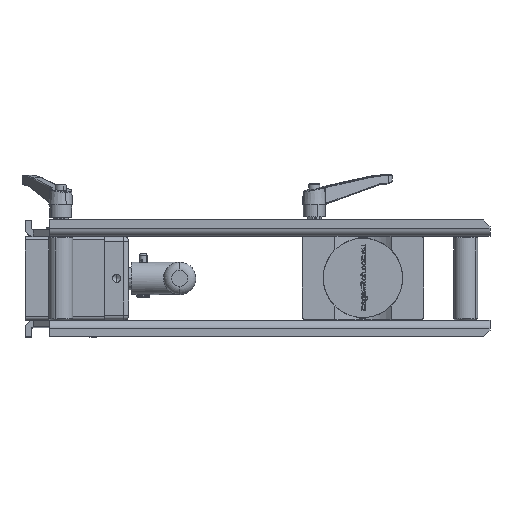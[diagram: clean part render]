
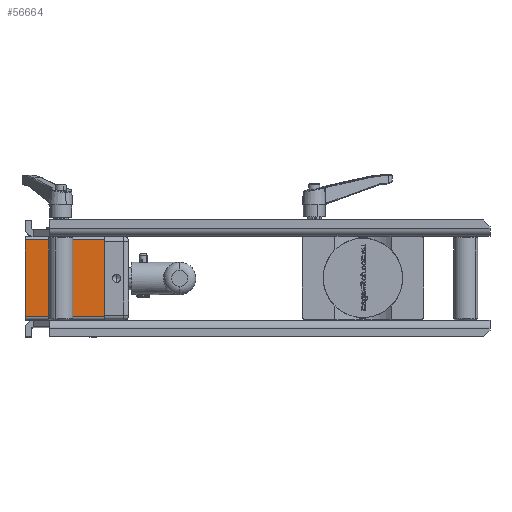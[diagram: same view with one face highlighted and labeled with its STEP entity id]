
A CAD part, top view. The second image highlights one B-rep face of the part: STEP entity #56664.
In plain terms, the highlighted planar face has unit normal (0, 0, 1).
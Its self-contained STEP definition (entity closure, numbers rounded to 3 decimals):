
#531 = VECTOR ( 'NONE', #123022, 1000. ) ;
#2863 = EDGE_CURVE ( 'NONE', #81732, #28580, #54577, .T. ) ;
#4057 = CARTESIAN_POINT ( 'NONE',  ( 0., -26.76, -159.886 ) ) ;
#11152 = FACE_OUTER_BOUND ( 'NONE', #78413, .T. ) ;
#13552 = LINE ( 'NONE', #84148, #116432 ) ;
#18914 = CARTESIAN_POINT ( 'NONE',  ( 49., -28.76, -159.886 ) ) ;
#25083 = CARTESIAN_POINT ( 'NONE',  ( 49., 20.74, -159.886 ) ) ;
#28580 = VERTEX_POINT ( 'NONE', #44745 ) ;
#30069 = DIRECTION ( 'NONE',  ( 0., 0., -1. ) ) ;
#33454 = AXIS2_PLACEMENT_3D ( 'NONE', #18914, #30069, #50245 ) ;
#41193 = EDGE_CURVE ( 'NONE', #78023, #128008, #51803, .T. ) ;
#42801 = DIRECTION ( 'NONE',  ( 0., 1., 0. ) ) ;
#44745 = CARTESIAN_POINT ( 'NONE',  ( 49., -26.76, -159.886 ) ) ;
#50245 = DIRECTION ( 'NONE',  ( 1., 0., 0. ) ) ;
#51803 = LINE ( 'NONE', #25083, #103354 ) ;
#52364 = ORIENTED_EDGE ( 'NONE', *, *, #41193, .T. ) ;
#54298 = EDGE_CURVE ( 'NONE', #81732, #128008, #13552, .T. ) ;
#54577 = LINE ( 'NONE', #131560, #104568 ) ;
#56664 = ADVANCED_FACE ( 'NONE', ( #11152 ), #91628, .F. ) ;
#66853 = DIRECTION ( 'NONE',  ( -1., 0., 0. ) ) ;
#78023 = VERTEX_POINT ( 'NONE', #122917 ) ;
#78413 = EDGE_LOOP ( 'NONE', ( #114267, #117386, #98874, #52364 ) ) ;
#79430 = DIRECTION ( 'NONE',  ( 1., 0., 0. ) ) ;
#80329 = CARTESIAN_POINT ( 'NONE',  ( 49., -28.76, -159.886 ) ) ;
#81732 = VERTEX_POINT ( 'NONE', #4057 ) ;
#84148 = CARTESIAN_POINT ( 'NONE',  ( 0., -28.76, -159.886 ) ) ;
#85476 = EDGE_CURVE ( 'NONE', #28580, #78023, #127601, .T. ) ;
#91628 = PLANE ( 'NONE',  #33454 ) ;
#98874 = ORIENTED_EDGE ( 'NONE', *, *, #85476, .T. ) ;
#103354 = VECTOR ( 'NONE', #66853, 1000. ) ;
#104568 = VECTOR ( 'NONE', #79430, 1000. ) ;
#114267 = ORIENTED_EDGE ( 'NONE', *, *, #54298, .F. ) ;
#116432 = VECTOR ( 'NONE', #42801, 1000. ) ;
#117386 = ORIENTED_EDGE ( 'NONE', *, *, #2863, .T. ) ;
#122917 = CARTESIAN_POINT ( 'NONE',  ( 49., 20.74, -159.886 ) ) ;
#123022 = DIRECTION ( 'NONE',  ( 0., 1., 0. ) ) ;
#123817 = CARTESIAN_POINT ( 'NONE',  ( 0., 20.74, -159.886 ) ) ;
#127601 = LINE ( 'NONE', #80329, #531 ) ;
#128008 = VERTEX_POINT ( 'NONE', #123817 ) ;
#131560 = CARTESIAN_POINT ( 'NONE',  ( 49., -26.76, -159.886 ) ) ;
